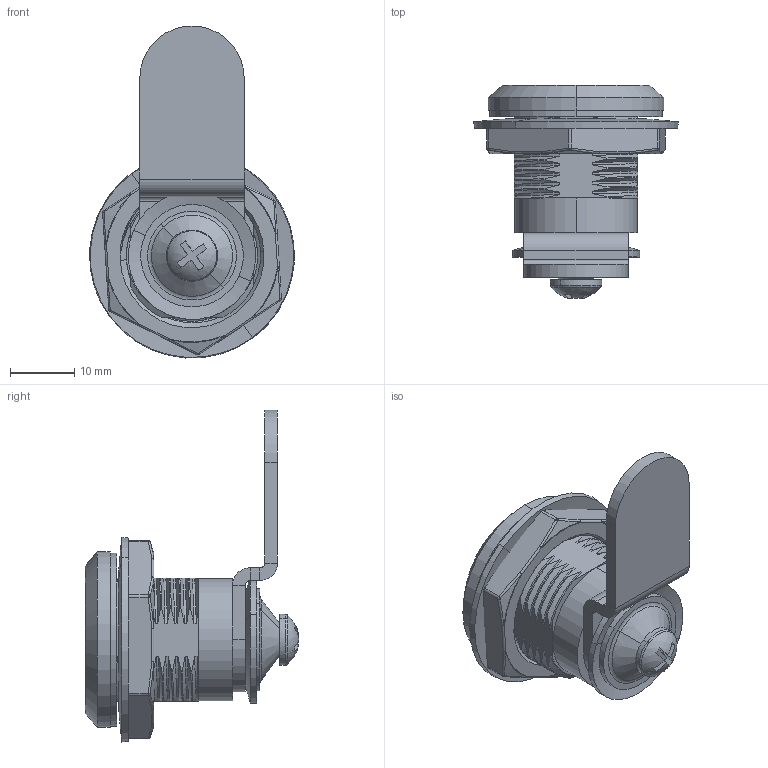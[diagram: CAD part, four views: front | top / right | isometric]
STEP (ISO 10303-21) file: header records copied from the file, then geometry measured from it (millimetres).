
FILE_DESCRIPTION (( 'STEP AP214' ), '1' );
FILE_NAME ('CUYUE.MS407.STEP', '2026-07-03T02:39:57', ( '' ), ( '' ), 'SwSTEP 2.0', 'SolidWorks 2020', '' );
FILE_SCHEMA (( 'AUTOMOTIVE_DESIGN' ));
Length unit declared in the file: millimetre
Products named in the file (10): 坶忕菜え2; 砎蝶躇猾菜; 坶褲; CUYUE.MS407; J-M22蹟譫; M4X18坋趼埴芛蹟隊; 菜え; 坶忕菜え; 坶忕^蚾饜极1; MS407坶郋
Assembly tree (9 placements, depth 2):
  CUYUE.MS407
    坶褲
    MS407坶郋
    菜え
    坶忕菜え
    坶忕菜え2
    砎蝶躇猾菜
    坶忕^蚾饜极1
    J-M22蹟譫
    M4X18坋趼埴芛蹟隊
Bounding box: 31.94 x 33.32 x 51.82 mm (x, y, z)
Volume: 11340.1 mm3; surface area: 11127.5 mm2
Topology: 9 solids, 9 shells, 568 faces, 1487 edges, 940 vertices
Faces by surface type: cylinder 223, bspline 191, plane 105, cone 34, torus 14, sphere 1
Entity records: 61379 total; most frequent: CARTESIAN_POINT 49310, ORIENTED_EDGE 2964, DIRECTION 1805, EDGE_CURVE 1482, VERTEX_POINT 938, AXIS2_PLACEMENT_3D 674, EDGE_LOOP 588, ADVANCED_FACE 568
